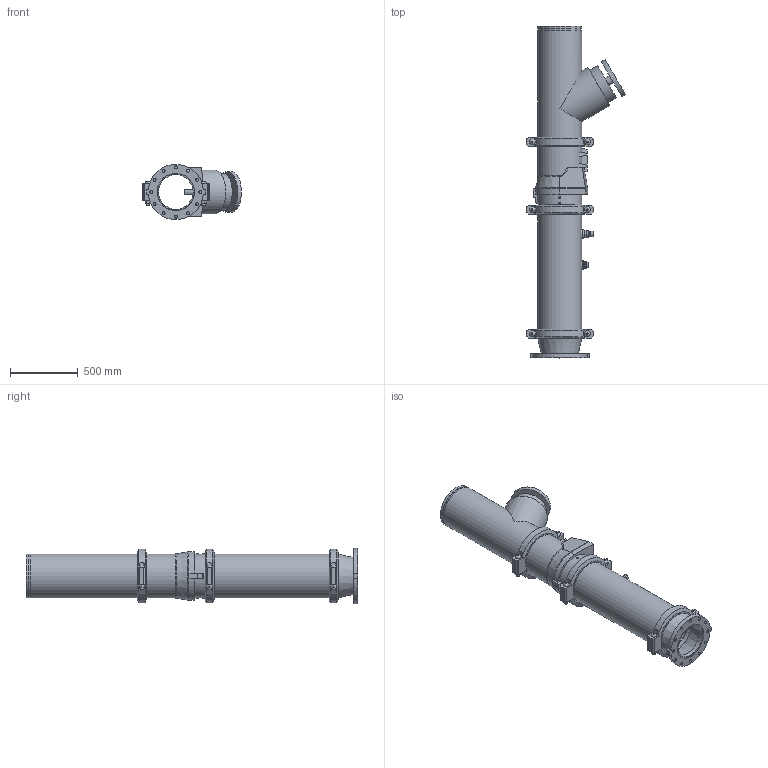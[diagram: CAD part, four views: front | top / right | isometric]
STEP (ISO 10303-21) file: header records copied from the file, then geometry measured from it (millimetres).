
FILE_DESCRIPTION(/* description */ ('VIC DVI PUMP DROP VERT S/383 (OGSxFLG) (S/924-0.75)','CAx-IF Rec.Pracs.---Representation and Presentation of Product Manufacturing Information (PMI)---4.0---2014-10-13'),/* implementation_level */ '2;1');
FILE_NAME(/* name */ 'C:\Users\Public\Documents\Victaulic.Temp\A849\Victaulic_IPS_Vertical DVI_CL 150_Series 383 (OGSxFLG)_924 (0.75)_12.0x10.0 (300x250).stp',/* time_stamp */ '2022-07-25T11:42:42+02:00',/* author */ ('Vjadhav'),/* organization */ ('Victaulic'),/* preprocessor_version */ 'ST-DEVELOPER v18',/* originating_system */ 'Autodesk Inventor 2020',/* authorisation */ '');
FILE_SCHEMA (('AP242_MANAGED_MODEL_BASED_3D_ENGINEERING_MIM_LF { 1 0 10303 442 1 1 4 }'));
Length unit declared in the file: inch
Products named in the file (9): 383_924 (0.75)-12.0x10.0; 741-10.0; 050-12.0x10.0; Pipe-12.0; 789-12.0; 779-12.0; 924-10.0x0.75; 923-10.0x0.75; 077-12.0
Assembly tree (10 placements, depth 2):
  383_924 (0.75)-12.0x10.0
    741-10.0
    050-12.0x10.0
    Pipe-12.0
    789-12.0
    779-12.0
    924-10.0x0.75
    923-10.0x0.75
    077-12.0  x3
Bounding box: 727.08 x 2443.23 x 406.4 mm (x, y, z)
Volume: 62325334.3 mm3; surface area: 6692423.2 mm2
Topology: 10 solids, 16 shells, 444 faces, 1110 edges, 760 vertices
Faces by surface type: plane 262, cylinder 149, cone 19, bspline 8, torus 6
Full cylindrical faces by diameter (mm): 13.716 x4, 21.336 x1, 22.225 x12, 25.4 x12, 26.67 x2, 27.432 x6, 38.608 x1, 45.974 x4, 55.626 x2, 60.96 x1, 76.2 x1, 254.508 x1, 268.275 x1, 273.05 x4, 299.974 x1, 303.225 x2, 304.8 x2, 314.96 x3, 318.287 x7, 323.85 x19
Entity records: 11069 total; most frequent: CARTESIAN_POINT 2131, DIRECTION 1831, ORIENTED_EDGE 1640, EDGE_CURVE 820, AXIS2_PLACEMENT_3D 704, VERTEX_POINT 564, LINE 423, VECTOR 423
